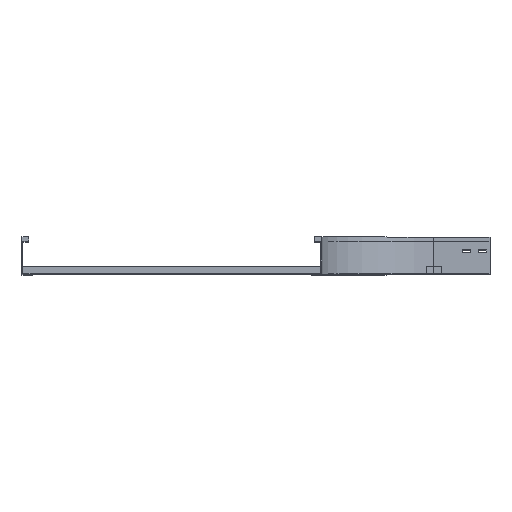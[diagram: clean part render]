
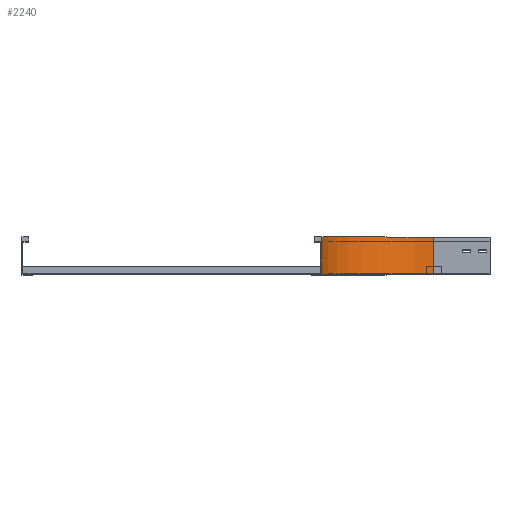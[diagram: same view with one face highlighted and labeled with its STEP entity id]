
A CAD part, top view. The second image highlights one B-rep face of the part: STEP entity #2240.
In plain terms, the highlighted cylindrical face has radius 300 mm (diameter 600 mm), a partial arc.
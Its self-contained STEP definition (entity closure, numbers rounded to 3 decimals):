
#68 = ORIENTED_EDGE ( 'NONE', *, *, #1942, .F. ) ;
#400 = EDGE_CURVE ( 'NONE', #3619, #3601, #1073, .T. ) ;
#566 = CARTESIAN_POINT ( 'NONE',  ( 300., 0., -150. ) ) ;
#584 = VECTOR ( 'NONE', #1143, 1000. ) ;
#871 = CARTESIAN_POINT ( 'NONE',  ( 0., 0., -150. ) ) ;
#874 = CARTESIAN_POINT ( 'NONE',  ( 300., 0., -450. ) ) ;
#901 = CYLINDRICAL_SURFACE ( 'NONE', #1589, 300. ) ;
#993 = CARTESIAN_POINT ( 'NONE',  ( 300., 0., -150. ) ) ;
#1073 = CIRCLE ( 'NONE', #3274, 300. ) ;
#1143 = DIRECTION ( 'NONE',  ( 0., 1., 0. ) ) ;
#1196 = LINE ( 'NONE', #874, #584 ) ;
#1266 = CARTESIAN_POINT ( 'NONE',  ( 300., 100., -150. ) ) ;
#1319 = DIRECTION ( 'NONE',  ( 0., -1., 0. ) ) ;
#1400 = AXIS2_PLACEMENT_3D ( 'NONE', #1266, #1319, #2526 ) ;
#1523 = DIRECTION ( 'NONE',  ( 0., -1., 0. ) ) ;
#1589 = AXIS2_PLACEMENT_3D ( 'NONE', #566, #1523, #2951 ) ;
#1630 = DIRECTION ( 'NONE',  ( -1., 0., 0. ) ) ;
#1717 = CARTESIAN_POINT ( 'NONE',  ( 0., 100., -150. ) ) ;
#1845 = DIRECTION ( 'NONE',  ( 0., 1., 0. ) ) ;
#1942 = EDGE_CURVE ( 'NONE', #2446, #2249, #3146, .T. ) ;
#1958 = EDGE_CURVE ( 'NONE', #3619, #2446, #3731, .T. ) ;
#2099 = ORIENTED_EDGE ( 'NONE', *, *, #400, .T. ) ;
#2171 = CARTESIAN_POINT ( 'NONE',  ( 300., 100., -450. ) ) ;
#2240 = ADVANCED_FACE ( 'NONE', ( #3250 ), #901, .F. ) ;
#2249 = VERTEX_POINT ( 'NONE', #2171 ) ;
#2446 = VERTEX_POINT ( 'NONE', #1717 ) ;
#2471 = CARTESIAN_POINT ( 'NONE',  ( 0., 0., -150. ) ) ;
#2526 = DIRECTION ( 'NONE',  ( -1., 0., 0. ) ) ;
#2858 = CARTESIAN_POINT ( 'NONE',  ( 300., 0., -450. ) ) ;
#2886 = ORIENTED_EDGE ( 'NONE', *, *, #1958, .F. ) ;
#2951 = DIRECTION ( 'NONE',  ( 0., 0., -1. ) ) ;
#2962 = EDGE_LOOP ( 'NONE', ( #68, #2886, #2099, #3001 ) ) ;
#3001 = ORIENTED_EDGE ( 'NONE', *, *, #3434, .T. ) ;
#3146 = CIRCLE ( 'NONE', #1400, 300. ) ;
#3250 = FACE_OUTER_BOUND ( 'NONE', #2962, .T. ) ;
#3274 = AXIS2_PLACEMENT_3D ( 'NONE', #993, #3705, #1630 ) ;
#3434 = EDGE_CURVE ( 'NONE', #3601, #2249, #1196, .T. ) ;
#3601 = VERTEX_POINT ( 'NONE', #2858 ) ;
#3611 = VECTOR ( 'NONE', #1845, 1000. ) ;
#3619 = VERTEX_POINT ( 'NONE', #871 ) ;
#3705 = DIRECTION ( 'NONE',  ( 0., -1., 0. ) ) ;
#3731 = LINE ( 'NONE', #2471, #3611 ) ;
